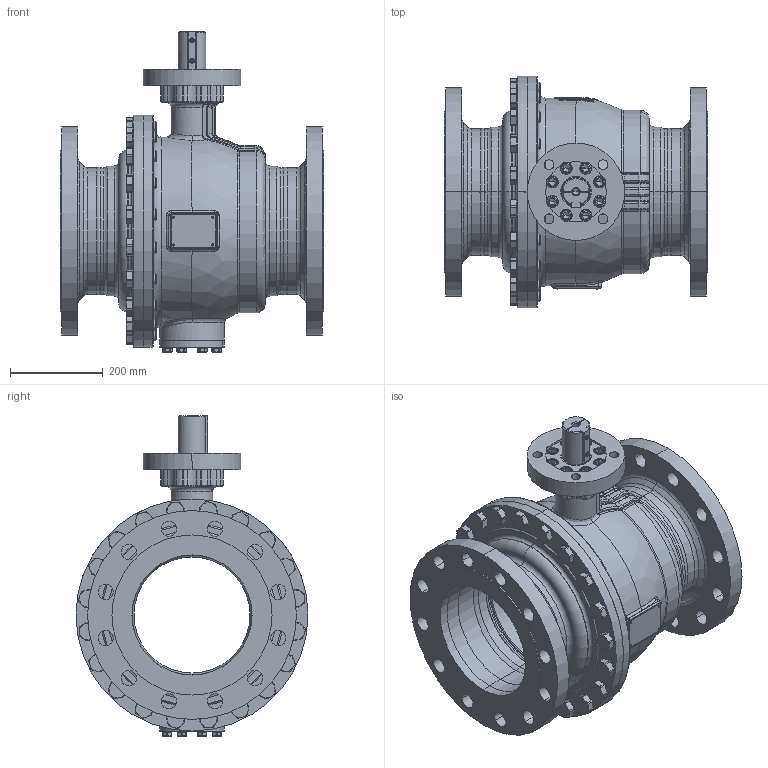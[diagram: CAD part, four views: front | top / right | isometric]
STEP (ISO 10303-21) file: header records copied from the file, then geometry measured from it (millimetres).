
FILE_DESCRIPTION((''),'2;1');
FILE_NAME('KHI-F_250_PN040-F16-P_SW0001','2026-02-05T13:43:09',('fischerkl'),('KLINGER'),'CREO PARAMETRIC BY PTC INC, 2023014','CREO PARAMETRIC BY PTC INC, 2023014','');
FILE_SCHEMA(('CONFIG_CONTROL_DESIGN'));
Products named in the file (1): KHI-F_250_PN040-F16-P_SW0001
Bounding box: 568 x 500 x 689.8 mm (x, y, z)
Volume: 25106976.4 mm3; surface area: 3556527.9 mm2
Topology: 1 solids, 4 shells, 3277 faces, 8305 edges, 5174 vertices
Faces by surface type: plane 1683, cylinder 768, cone 387, torus 312, bspline 97, sphere 30
Entity records: 134222 total; most frequent: CARTESIAN_POINT 56238, ORIENTED_EDGE 16550, DIRECTION 16034, EDGE_CURVE 8275, AXIS2_PLACEMENT_3D 6057, VERTEX_POINT 5174, VECTOR 3920, LINE 3920
